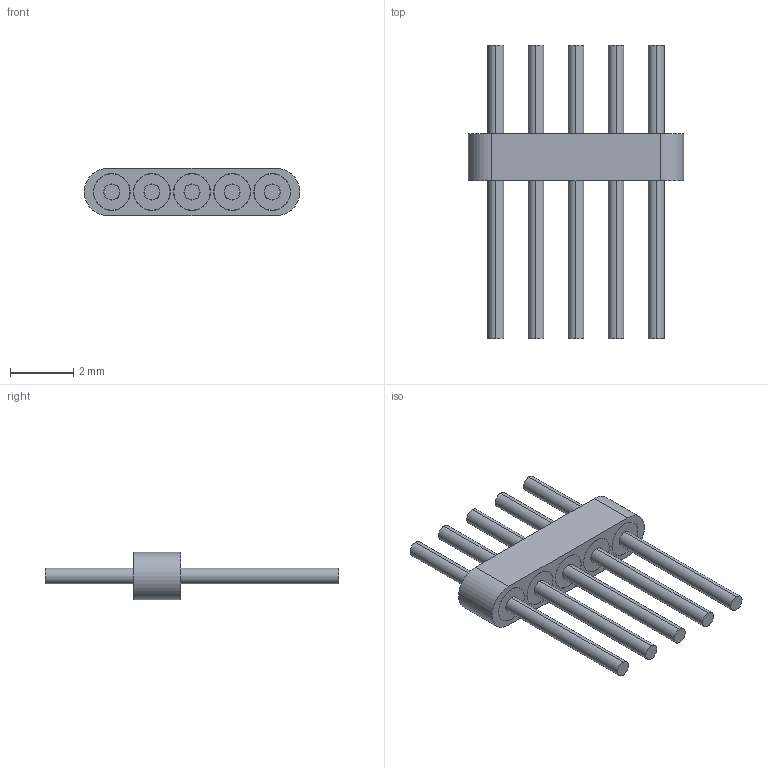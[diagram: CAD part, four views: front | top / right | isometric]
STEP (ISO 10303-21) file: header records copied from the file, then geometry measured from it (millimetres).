
FILE_DESCRIPTION (( 'STEP AP203' ), '1' );
FILE_NAME ('5о.STEP', '2023-11-09T01:39:40', ( 'China' ), ( 'Microsoft' ), 'SwSTEP 2.0', 'SolidWorks 2019', '' );
FILE_SCHEMA (( 'CONFIG_CONTROL_DESIGN' ));
Length unit declared in the file: millimetre
Products named in the file (1): 5о
Bounding box: 6.83 x 9.3 x 1.5 mm (x, y, z)
Volume: 22.1 mm3; surface area: 181.8 mm2
Topology: 11 solids, 11 shells, 66 faces, 132 edges, 88 vertices
Faces by surface type: cylinder 42, plane 24
Entity records: 1857 total; most frequent: DIRECTION 350, CARTESIAN_POINT 287, ORIENTED_EDGE 264, AXIS2_PLACEMENT_3D 151, EDGE_CURVE 132, VERTEX_POINT 88, EDGE_LOOP 86, CIRCLE 84
